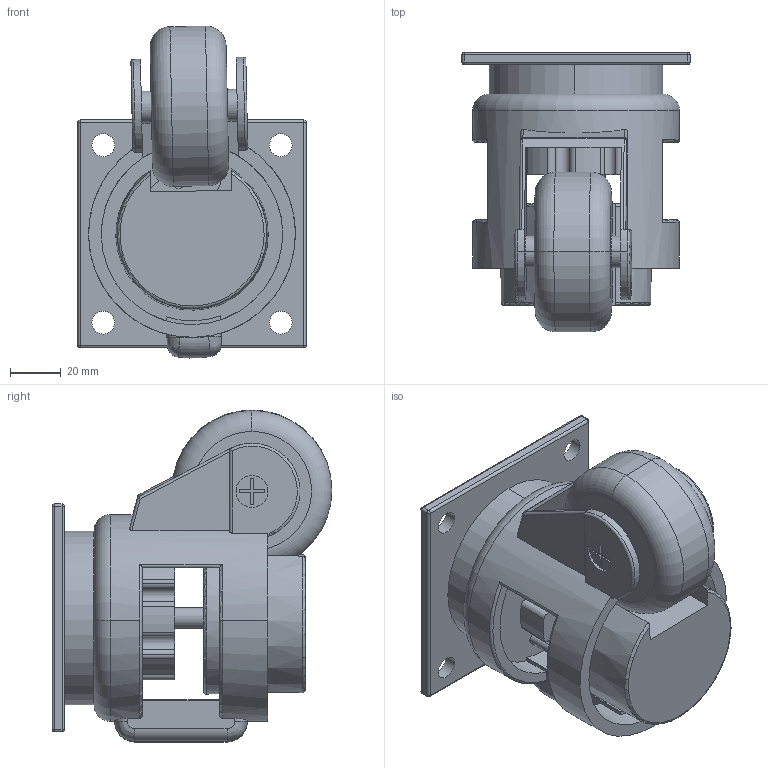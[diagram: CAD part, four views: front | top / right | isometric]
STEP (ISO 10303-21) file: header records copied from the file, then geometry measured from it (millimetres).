
FILE_DESCRIPTION (( 'STEP AP203' ), '1' );
FILE_NAME ('25-R1301-80F.step11.STEP', '2023-03-06T03:42:36', ( 'amidn' ), ( '' ), 'SwSTEP 2.0', 'SolidWorks 2018', '' );
FILE_SCHEMA (( 'CONFIG_CONTROL_DESIGN' ));
Length unit declared in the file: millimetre
Products named in the file (3): 25-R1301-80F-11; 25-R1301-80F.step11; 25-R1301-80F
Assembly tree (2 placements, depth 2):
  25-R1301-80F.step11
    25-R1301-80F
    25-R1301-80F-11
Bounding box: 90 x 110.34 x 130.98 mm (x, y, z)
Volume: 391338.1 mm3; surface area: 90532.3 mm2
Topology: 2 solids, 2 shells, 240 faces, 626 edges, 392 vertices
Faces by surface type: cylinder 118, plane 78, torus 29, sphere 10, bspline 4, cone 1
Entity records: 8555 total; most frequent: CARTESIAN_POINT 2224, DIRECTION 1353, ORIENTED_EDGE 1232, EDGE_CURVE 616, AXIS2_PLACEMENT_3D 536, VERTEX_POINT 392, CIRCLE 295, LINE 281
